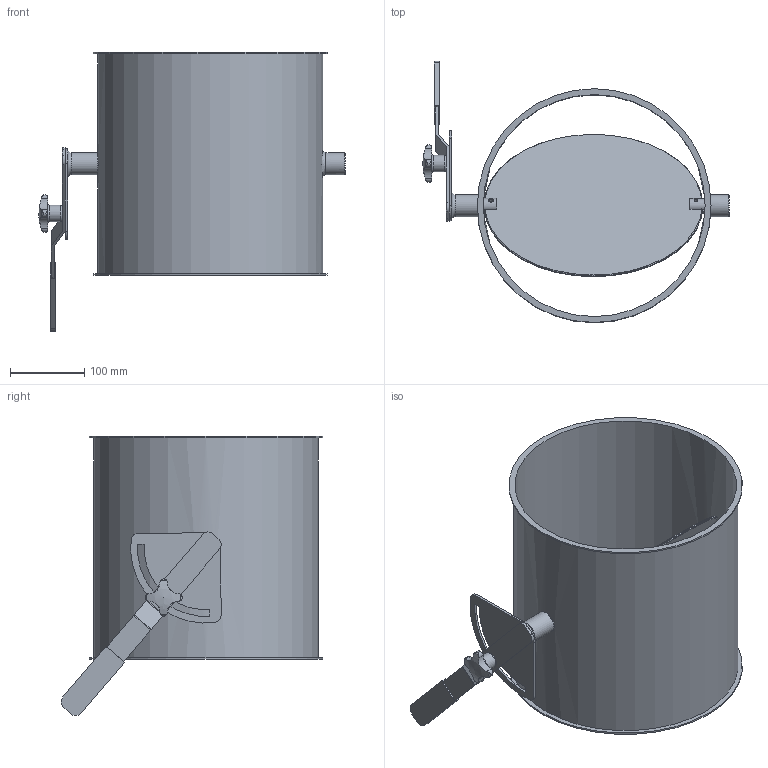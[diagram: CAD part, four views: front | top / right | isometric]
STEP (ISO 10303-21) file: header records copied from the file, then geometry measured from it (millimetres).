
FILE_DESCRIPTION((''),'2;1');
FILE_NAME('U:\Wolfgang\Marcel-3D\fertig\Kapitel 8\3021075.stp','2012-01-13T11:18:19',('iwienholt'),(''),'Autodesk Inventor 2010','Autodesk Inventor 2010','');
FILE_SCHEMA(('AUTOMOTIVE_DESIGN { 1 0 10303 214 1 1 1 1 }'));
Length unit declared in the file: millimetre
Products named in the file (7): 3021075; Bolzen D20; ganter_din_6335-ku-50-m10-k; Griff D20; Scheibe300; Umstellsegment D20; 3021075-1
Assembly tree (6 placements, depth 2):
  3021075
    Bolzen D20
    ganter_din_6335-ku-50-m10-k
    Griff D20
    Scheibe300
    Umstellsegment D20
    3021075-1
Bounding box: 413 x 352.75 x 376.07 mm (x, y, z)
Volume: 956447.7 mm3; surface area: 802366.9 mm2
Topology: 6 solids, 6 shells, 119 faces, 304 edges, 206 vertices
Faces by surface type: plane 51, cylinder 46, torus 9, bspline 7, cone 5, sphere 1
Full cylindrical faces by diameter (mm): 6 x4, 8 x1, 9 x1, 10 x2, 16 x1, 20 x6, 22 x1, 30 x3, 295 x1, 299 x1, 303 x1, 315 x2
Entity records: 4467 total; most frequent: CARTESIAN_POINT 1602, DIRECTION 566, ORIENTED_EDGE 492, EDGE_CURVE 246, AXIS2_PLACEMENT_3D 240, EDGE_LOOP 188, VERTEX_POINT 186, FACE_OUTER_BOUND 119
